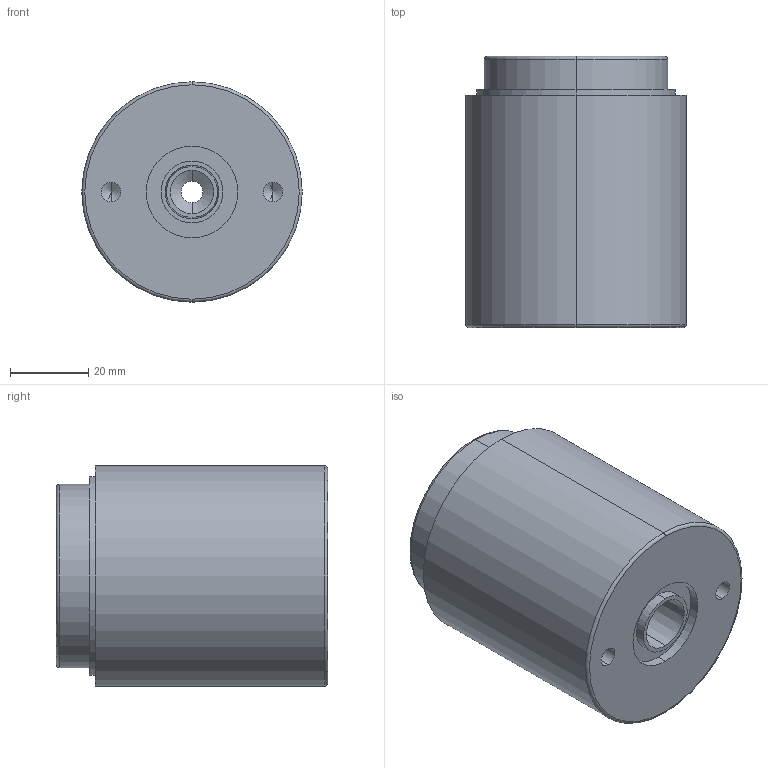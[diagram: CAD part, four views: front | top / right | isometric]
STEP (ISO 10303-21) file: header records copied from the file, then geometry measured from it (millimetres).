
FILE_DESCRIPTION (( 'STEP AP203' ), '1' );
FILE_NAME ('1Body Style.STEP', '2020-02-09T00:01:56', ( '' ), ( '' ), 'SwSTEP 2.0', 'SolidWorks 2017', '' );
FILE_SCHEMA (( 'CONFIG_CONTROL_DESIGN' ));
Length unit declared in the file: inch
Products named in the file (1): 1Body Style
Bounding box: 56.49 x 69.52 x 56.49 mm (x, y, z)
Volume: 147678.3 mm3; surface area: 21553.5 mm2
Topology: 1 solids, 1 shells, 38 faces, 80 edges, 48 vertices
Faces by surface type: cylinder 18, cone 8, plane 8, torus 4
Entity records: 1089 total; most frequent: DIRECTION 204, CARTESIAN_POINT 163, ORIENTED_EDGE 152, AXIS2_PLACEMENT_3D 89, EDGE_CURVE 76, CIRCLE 50, VERTEX_POINT 48, EDGE_LOOP 48
